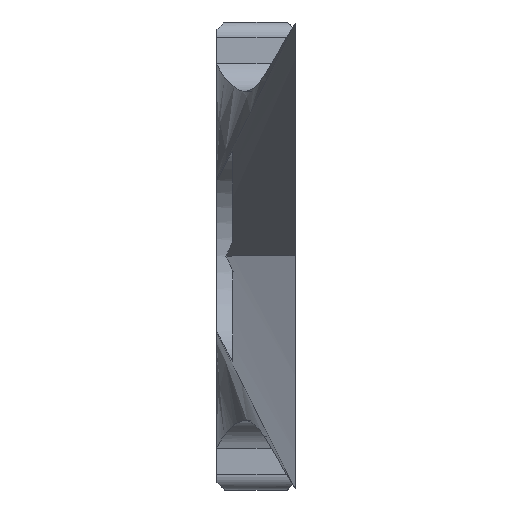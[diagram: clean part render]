
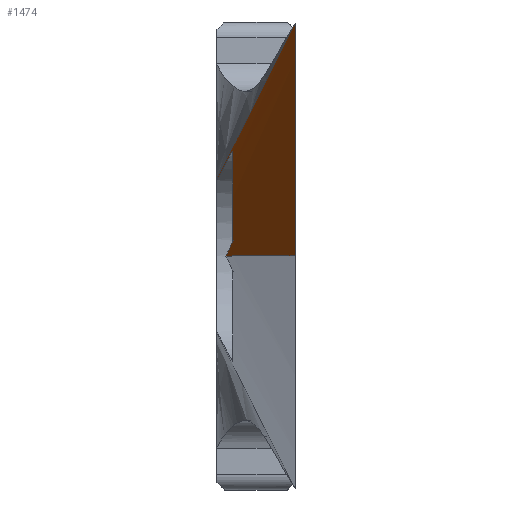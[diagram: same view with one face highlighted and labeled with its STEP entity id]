
A CAD part, left-side view. The second image highlights one B-rep face of the part: STEP entity #1474.
In plain terms, the highlighted conical face has half-angle 63.435 degrees and reference radius 793.883 mm.
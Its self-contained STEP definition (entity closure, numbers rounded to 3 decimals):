
#17=(
BOUNDED_CURVE()
B_SPLINE_CURVE(2,(#2681,#2682,#2683),.UNSPECIFIED.,.F.,.F.)
B_SPLINE_CURVE_WITH_KNOTS((3,3),(0.,4.897),.UNSPECIFIED.)
CURVE()
GEOMETRIC_REPRESENTATION_ITEM()
RATIONAL_B_SPLINE_CURVE((1.,1.001,1.001))
REPRESENTATION_ITEM('')
);
#60=B_SPLINE_CURVE_WITH_KNOTS('',3,(#2627,#2628,#2629,#2630,#2631,#2632,
#2633,#2634,#2635,#2636),.UNSPECIFIED.,.F.,.F.,(4,2,2,2,4),(0.336,
0.36,0.402,0.44,0.479),
 .UNSPECIFIED.);
#63=B_SPLINE_CURVE_WITH_KNOTS('',3,(#2665,#2666,#2667,#2668,#2669,#2670,
#2671,#2672),.UNSPECIFIED.,.F.,.F.,(4,2,2,4),(0.557,0.56,
0.822,1.084),.UNSPECIFIED.);
#64=B_SPLINE_CURVE_WITH_KNOTS('',3,(#2677,#2678,#2679,#2680),
 .UNSPECIFIED.,.F.,.F.,(4,4),(33.92,34.53),
 .UNSPECIFIED.);
#65=B_SPLINE_CURVE_WITH_KNOTS('',3,(#2684,#2685,#2686,#2687,#2688,#2689),
 .UNSPECIFIED.,.F.,.F.,(4,1,1,4),(2.349,2.433,2.875,
3.537),.UNSPECIFIED.);
#107=CIRCLE('',#1576,798.883);
#157=CIRCLE('',#1649,788.883);
#178=CIRCLE('',#1684,790.883);
#222=CONICAL_SURFACE('',#1688,793.883,1.107);
#281=FACE_OUTER_BOUND('',#377,.T.);
#377=EDGE_LOOP('',(#1273,#1274,#1275,#1276,#1277,#1278,#1279,#1280));
#643=VERTEX_POINT('',#2335);
#644=VERTEX_POINT('',#2340);
#704=VERTEX_POINT('',#2528);
#705=VERTEX_POINT('',#2530);
#728=VERTEX_POINT('',#2625);
#729=VERTEX_POINT('',#2626);
#731=VERTEX_POINT('',#2651);
#733=VERTEX_POINT('',#2676);
#799=EDGE_CURVE('',#643,#644,#107,.T.);
#881=EDGE_CURVE('',#704,#705,#157,.T.);
#917=EDGE_CURVE('',#728,#729,#60,.F.);
#921=EDGE_CURVE('',#731,#728,#178,.T.);
#925=EDGE_CURVE('',#704,#731,#63,.T.);
#927=EDGE_CURVE('',#729,#733,#64,.T.);
#928=EDGE_CURVE('',#644,#733,#17,.T.);
#929=EDGE_CURVE('',#705,#643,#65,.T.);
#1273=ORIENTED_EDGE('',*,*,#925,.T.);
#1274=ORIENTED_EDGE('',*,*,#921,.T.);
#1275=ORIENTED_EDGE('',*,*,#917,.T.);
#1276=ORIENTED_EDGE('',*,*,#927,.T.);
#1277=ORIENTED_EDGE('',*,*,#928,.F.);
#1278=ORIENTED_EDGE('',*,*,#799,.F.);
#1279=ORIENTED_EDGE('',*,*,#929,.F.);
#1280=ORIENTED_EDGE('',*,*,#881,.F.);
#1474=ADVANCED_FACE('',(#281),#222,.T.);
#1576=AXIS2_PLACEMENT_3D('',#2341,#1858,#1859);
#1649=AXIS2_PLACEMENT_3D('',#2531,#2032,#2033);
#1684=AXIS2_PLACEMENT_3D('',#2652,#2118,#2119);
#1688=AXIS2_PLACEMENT_3D('',#2675,#2128,#2129);
#1858=DIRECTION('center_axis',(0.,-1.,0.));
#1859=DIRECTION('ref_axis',(-0.012,0.,1.));
#2032=DIRECTION('center_axis',(0.,1.,0.));
#2033=DIRECTION('ref_axis',(-0.012,0.,1.));
#2118=DIRECTION('center_axis',(0.,-1.,0.));
#2119=DIRECTION('ref_axis',(-0.133,0.,0.991));
#2128=DIRECTION('center_axis',(0.,-1.,0.));
#2129=DIRECTION('ref_axis',(-0.012,0.,1.));
#2335=CARTESIAN_POINT('',(-64.373,0.,39.876));
#2340=CARTESIAN_POINT('',(-202.449,0.,25.));
#2341=CARTESIAN_POINT('Origin',(-48.16,0.,-758.843));
#2528=CARTESIAN_POINT('',(-65.79,5.,29.844));
#2530=CARTESIAN_POINT('',(-60.632,5.,29.942));
#2531=CARTESIAN_POINT('Origin',(-48.16,5.,-758.843));
#2625=CARTESIAN_POINT('',(-145.999,4.,25.965));
#2626=CARTESIAN_POINT('',(-146.875,4.424,25.));
#2627=CARTESIAN_POINT('Ctrl Pts',(-146.875,4.424,25.));
#2628=CARTESIAN_POINT('Ctrl Pts',(-146.873,4.386,25.077));
#2629=CARTESIAN_POINT('Ctrl Pts',(-146.862,4.348,25.156));
#2630=CARTESIAN_POINT('Ctrl Pts',(-146.807,4.249,25.361));
#2631=CARTESIAN_POINT('Ctrl Pts',(-146.745,4.192,25.484));
#2632=CARTESIAN_POINT('Ctrl Pts',(-146.591,4.104,25.683));
#2633=CARTESIAN_POINT('Ctrl Pts',(-146.49,4.065,25.773));
#2634=CARTESIAN_POINT('Ctrl Pts',(-146.259,4.013,25.906));
#2635=CARTESIAN_POINT('Ctrl Pts',(-146.127,4.,25.949));
#2636=CARTESIAN_POINT('Ctrl Pts',(-145.999,4.,25.965));
#2651=CARTESIAN_POINT('',(-70.656,4.,31.721));
#2652=CARTESIAN_POINT('Origin',(-48.16,4.,-758.843));
#2665=CARTESIAN_POINT('Ctrl Pts',(-65.79,5.,29.844));
#2666=CARTESIAN_POINT('Ctrl Pts',(-65.796,4.997,29.849));
#2667=CARTESIAN_POINT('Ctrl Pts',(-65.802,4.994,29.855));
#2668=CARTESIAN_POINT('Ctrl Pts',(-66.404,4.701,30.429));
#2669=CARTESIAN_POINT('Ctrl Pts',(-67.167,4.44,30.932));
#2670=CARTESIAN_POINT('Ctrl Pts',(-68.855,4.089,31.591));
#2671=CARTESIAN_POINT('Ctrl Pts',(-69.782,4.,31.745));
#2672=CARTESIAN_POINT('Ctrl Pts',(-70.656,4.,31.721));
#2675=CARTESIAN_POINT('Origin',(-48.16,2.5,-758.843));
#2676=CARTESIAN_POINT('',(-153.454,4.,25.));
#2677=CARTESIAN_POINT('Ctrl Pts',(-146.875,4.424,25.));
#2678=CARTESIAN_POINT('Ctrl Pts',(-149.07,4.287,25.));
#2679=CARTESIAN_POINT('Ctrl Pts',(-151.263,4.146,25.));
#2680=CARTESIAN_POINT('Ctrl Pts',(-153.454,4.,25.));
#2681=CARTESIAN_POINT('Ctrl Pts',(-202.449,0.,
25.));
#2682=CARTESIAN_POINT('Ctrl Pts',(-177.828,2.377,25.));
#2683=CARTESIAN_POINT('Ctrl Pts',(-153.454,4.,25.));
#2684=CARTESIAN_POINT('Ctrl Pts',(-60.63,4.999,29.944));
#2685=CARTESIAN_POINT('Ctrl Pts',(-60.818,4.903,30.132));
#2686=CARTESIAN_POINT('Ctrl Pts',(-61.919,4.277,31.367));
#2687=CARTESIAN_POINT('Ctrl Pts',(-63.549,2.624,34.644));
#2688=CARTESIAN_POINT('Ctrl Pts',(-64.193,0.986,37.908));
#2689=CARTESIAN_POINT('Ctrl Pts',(-64.373,0.,
39.876));
